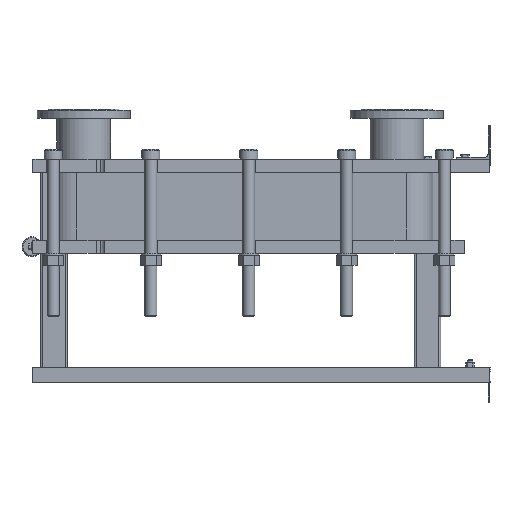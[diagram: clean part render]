
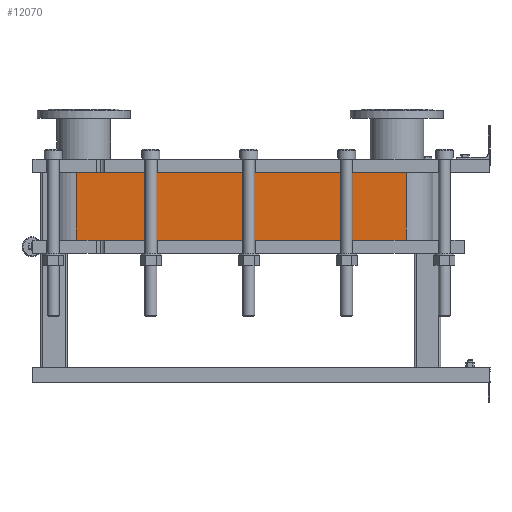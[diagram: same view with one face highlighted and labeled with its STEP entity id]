
A CAD part, left-side view. The second image highlights one B-rep face of the part: STEP entity #12070.
In plain terms, the highlighted planar face has unit normal (-1, 0, 0).
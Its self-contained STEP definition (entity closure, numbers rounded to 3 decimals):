
#1064=LINE('',#21140,#2164);
#1065=LINE('',#21144,#2165);
#1066=LINE('',#21146,#2166);
#1067=LINE('',#21147,#2167);
#2164=VECTOR('',#15790,10.);
#2165=VECTOR('',#15795,10.);
#2166=VECTOR('',#15796,10.);
#2167=VECTOR('',#15797,10.);
#3304=FACE_OUTER_BOUND('',#4091,.T.);
#4091=EDGE_LOOP('',(#9793,#9794,#9795,#9796));
#5677=VERTEX_POINT('',#21137);
#5678=VERTEX_POINT('',#21139);
#5679=VERTEX_POINT('',#21143);
#5680=VERTEX_POINT('',#21145);
#7118=EDGE_CURVE('',#5678,#5677,#1064,.T.);
#7120=EDGE_CURVE('',#5677,#5679,#1065,.T.);
#7121=EDGE_CURVE('',#5680,#5679,#1066,.T.);
#7122=EDGE_CURVE('',#5680,#5678,#1067,.T.);
#9793=ORIENTED_EDGE('',*,*,#7120,.T.);
#9794=ORIENTED_EDGE('',*,*,#7121,.F.);
#9795=ORIENTED_EDGE('',*,*,#7122,.T.);
#9796=ORIENTED_EDGE('',*,*,#7118,.T.);
#11441=PLANE('',#13191);
#12070=ADVANCED_FACE('',(#3304),#11441,.T.);
#13191=AXIS2_PLACEMENT_3D('',#21142,#15793,#15794);
#15790=DIRECTION('',(0.,0.,-1.));
#15793=DIRECTION('center_axis',(-1.,0.,0.));
#15794=DIRECTION('ref_axis',(0.,1.,0.));
#15795=DIRECTION('',(0.,-1.,0.));
#15796=DIRECTION('',(0.,0.,-1.));
#15797=DIRECTION('',(0.,1.,0.));
#21137=CARTESIAN_POINT('',(-248.152,1243.818,-203.55));
#21139=CARTESIAN_POINT('',(-248.152,1243.818,0.));
#21140=CARTESIAN_POINT('',(-248.152,1243.818,0.));
#21142=CARTESIAN_POINT('Origin',(-248.152,251.818,0.));
#21143=CARTESIAN_POINT('',(-248.152,251.818,-203.55));
#21144=CARTESIAN_POINT('',(-248.152,499.818,-203.55));
#21145=CARTESIAN_POINT('',(-248.152,251.818,0.));
#21146=CARTESIAN_POINT('',(-248.152,251.818,0.));
#21147=CARTESIAN_POINT('',(-248.152,251.818,0.));
